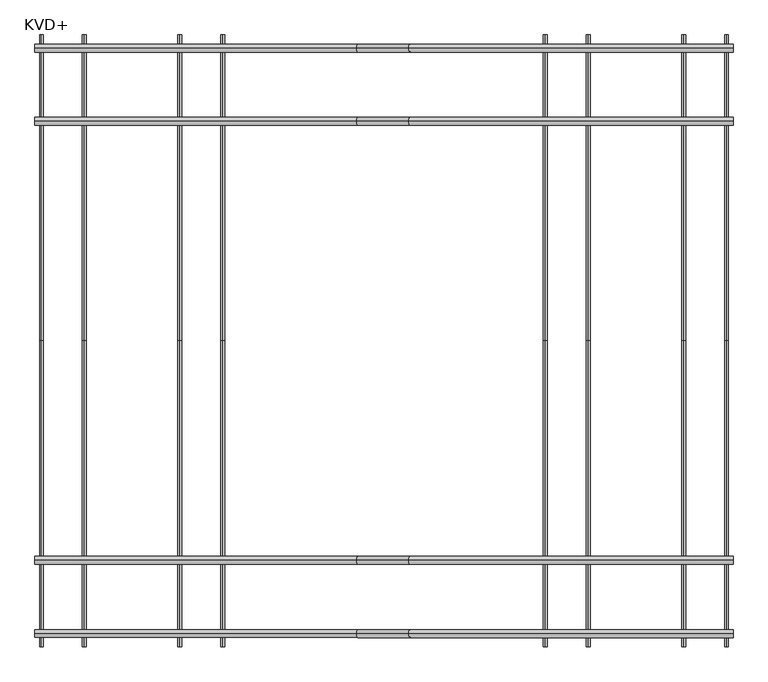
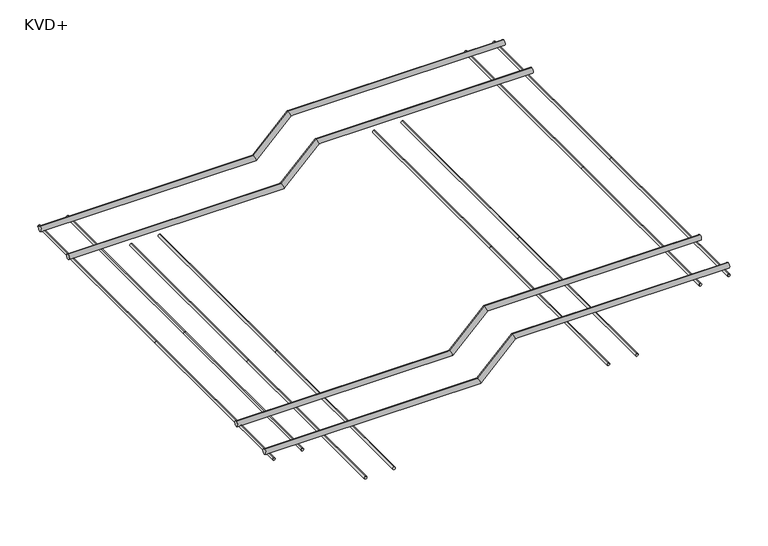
"""IFC4 building model written with IfcOpenShell, lengths in millimetres: proxy geometry, ACINOXplus_Typenreihe_KV : KVD+."""

from ifc_helpers import new_model, si_unit, frame, origin, place, context, project, spatial, circle_curve, ellipse_curve, source, transform, mapped, element, save
from ifc_brep_helpers import plane_surface, cylinder_surface, advanced_brep


def kvd_c4831772(model_context):
    return source(origin(), model_context, "Body", "AdvancedBrep", [
        advanced_brep(
        [(-530.0, 333.3333333, -42.0), (-530.0, 333.3333333, -30.0), (-37.5147186, 333.3333333, -42.0), (-42.4852814, 333.3333333, -30.0), (530.0, 333.3333333, 38.0), (530.0, 333.3333333, 50.0), (37.5147186, 333.3333333, 50.0), (42.4852814, 333.3333333, 38.0)],
        [
            (0, 1, circle_curve(frame((-530.0, 333.3333333, -36.0), z_axis=(-1.0, 0.0, 0.0), x_axis=(0.0, 0.0, 1.0)), 6.0)),
            (1, 0, circle_curve(frame((-530.0, 333.3333333, -36.0), z_axis=(-1.0, 0.0, 0.0), x_axis=(0.0, 0.0, 1.0)), 6.0)),
            (0, 2),
            (2, 3, ellipse_curve(frame((-40.0, 333.3333333, -36.0), z_axis=(-0.923879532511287, 0.0, -0.38268343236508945), x_axis=(-0.38268343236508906, 0.0, 0.9238795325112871)), 6.4943532, 6.0)),
            (3, 1),
            (3, 2, ellipse_curve(frame((-40.0, 333.3333333, -36.0), z_axis=(-0.923879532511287, 0.0, -0.38268343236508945), x_axis=(-0.38268343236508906, 0.0, 0.9238795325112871)), 6.4943532, 6.0)),
            (4, 5, circle_curve(frame((530.0, 333.3333333, 44.0), z_axis=(1.0, 0.0, 0.0), x_axis=(0.0, 0.0, 1.0)), 6.0)),
            (5, 4, circle_curve(frame((530.0, 333.3333333, 44.0), z_axis=(1.0, 0.0, 0.0), x_axis=(0.0, 0.0, 1.0)), 6.0)),
            (6, 7, ellipse_curve(frame((40.0, 333.3333333, 44.0), z_axis=(0.923879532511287, 0.0, 0.38268343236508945), x_axis=(-0.38268343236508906, 0.0, 0.9238795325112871)), 6.4943532, 6.0)),
            (7, 4),
            (5, 6),
            (7, 6, ellipse_curve(frame((40.0, 333.3333333, 44.0), z_axis=(0.923879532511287, 0.0, 0.38268343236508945), x_axis=(-0.38268343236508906, 0.0, 0.9238795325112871)), 6.4943532, 6.0)),
            (2, 7),
            (6, 3),
        ],
        [
            plane_surface(frame((-530.0, 333.3333333, -36.0), z_axis=(-1.0, 0.0, 0.0), x_axis=(0.0, -1.0, 0.0))),
            cylinder_surface(frame((-530.0, 333.3333333, -36.0), z_axis=(-1.0, 0.0, 0.0), x_axis=(0.0, 0.0, 1.0)), 6.0),
            plane_surface(frame((530.0, 333.3333333, 44.0), z_axis=(1.0, 0.0, 0.0), x_axis=(0.0, -1.0, 0.0))),
            cylinder_surface(frame((40.0, 333.3333333, 44.0), z_axis=(-1.0, 0.0, 0.0), x_axis=(0.0, 0.0, 1.0)), 6.0),
            cylinder_surface(frame((-40.0, 333.3333333, -36.0), z_axis=(-0.7071067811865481, 0.0, -0.707106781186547), x_axis=(-0.707106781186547, 0.0, 0.7071067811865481)), 6.0),
        ],
        [
            (0, [[1, 2]]),
            (1, [[-1, 3, 4, 5]]),
            (1, [[-2, -5, 6, -3]]),
            (2, [[7, 8]]),
            (3, [[9, 10, -8, 11]]),
            (3, [[12, -11, -7, -10]]),
            (4, [[-4, 13, -9, 14]]),
            (4, [[-6, -14, -12, -13]]),
        ],
    ),
        advanced_brep(
        [(-530.0, 444.4444444, -42.0), (-530.0, 444.4444444, -30.0), (-37.5147186, 444.4444444, -42.0), (-42.4852814, 444.4444444, -30.0), (530.0, 444.4444444, 38.0), (530.0, 444.4444444, 50.0), (37.5147186, 444.4444444, 50.0), (42.4852814, 444.4444444, 38.0)],
        [
            (0, 1, circle_curve(frame((-530.0, 444.4444444, -36.0), z_axis=(-1.0, 0.0, 0.0), x_axis=(0.0, 0.0, 1.0)), 6.0)),
            (1, 0, circle_curve(frame((-530.0, 444.4444444, -36.0), z_axis=(-1.0, 0.0, 0.0), x_axis=(0.0, 0.0, 1.0)), 6.0)),
            (0, 2),
            (2, 3, ellipse_curve(frame((-40.0, 444.4444444, -36.0), z_axis=(-0.923879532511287, 0.0, -0.38268343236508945), x_axis=(-0.38268343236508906, 0.0, 0.9238795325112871)), 6.4943532, 6.0)),
            (3, 1),
            (3, 2, ellipse_curve(frame((-40.0, 444.4444444, -36.0), z_axis=(-0.923879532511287, 0.0, -0.38268343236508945), x_axis=(-0.38268343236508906, 0.0, 0.9238795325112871)), 6.4943532, 6.0)),
            (4, 5, circle_curve(frame((530.0, 444.4444444, 44.0), z_axis=(1.0, 0.0, 0.0), x_axis=(0.0, 0.0, 1.0)), 6.0)),
            (5, 4, circle_curve(frame((530.0, 444.4444444, 44.0), z_axis=(1.0, 0.0, 0.0), x_axis=(0.0, 0.0, 1.0)), 6.0)),
            (6, 7, ellipse_curve(frame((40.0, 444.4444444, 44.0), z_axis=(0.923879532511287, 0.0, 0.38268343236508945), x_axis=(-0.38268343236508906, 0.0, 0.9238795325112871)), 6.4943532, 6.0)),
            (7, 4),
            (5, 6),
            (7, 6, ellipse_curve(frame((40.0, 444.4444444, 44.0), z_axis=(0.923879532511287, 0.0, 0.38268343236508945), x_axis=(-0.38268343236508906, 0.0, 0.9238795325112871)), 6.4943532, 6.0)),
            (2, 7),
            (6, 3),
        ],
        [
            plane_surface(frame((-530.0, 444.4444444, -36.0), z_axis=(-1.0, 0.0, 0.0), x_axis=(0.0, -1.0, 0.0))),
            cylinder_surface(frame((-530.0, 444.4444444, -36.0), z_axis=(-1.0, 0.0, 0.0), x_axis=(0.0, 0.0, 1.0)), 6.0),
            plane_surface(frame((530.0, 444.4444444, 44.0), z_axis=(1.0, 0.0, 0.0), x_axis=(0.0, -1.0, 0.0))),
            cylinder_surface(frame((40.0, 444.4444444, 44.0), z_axis=(-1.0, 0.0, 0.0), x_axis=(0.0, 0.0, 1.0)), 6.0),
            cylinder_surface(frame((-40.0, 444.4444444, -36.0), z_axis=(-0.7071067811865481, 0.0, -0.707106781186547), x_axis=(-0.707106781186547, 0.0, 0.7071067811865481)), 6.0),
        ],
        [
            (0, [[1, 2]]),
            (1, [[-1, 3, 4, 5]]),
            (1, [[-2, -5, 6, -3]]),
            (2, [[7, 8]]),
            (3, [[9, 10, -8, 11]]),
            (3, [[12, -11, -7, -10]]),
            (4, [[-4, 13, -9, 14]]),
            (4, [[-6, -14, -12, -13]]),
        ],
    ),
        advanced_brep(
        [(-530.0, -333.3333333, -42.0), (-530.0, -333.3333333, -30.0), (-37.5147186, -333.3333333, -42.0), (-42.4852814, -333.3333333, -30.0), (530.0, -333.3333333, 38.0), (530.0, -333.3333333, 50.0), (37.5147186, -333.3333333, 50.0), (42.4852814, -333.3333333, 38.0)],
        [
            (0, 1, circle_curve(frame((-530.0, -333.3333333, -36.0), z_axis=(-1.0, 0.0, 0.0), x_axis=(0.0, 0.0, 1.0)), 6.0)),
            (1, 0, circle_curve(frame((-530.0, -333.3333333, -36.0), z_axis=(-1.0, 0.0, 0.0), x_axis=(0.0, 0.0, 1.0)), 6.0)),
            (0, 2),
            (2, 3, ellipse_curve(frame((-40.0, -333.3333333, -36.0), z_axis=(-0.923879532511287, 0.0, -0.38268343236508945), x_axis=(-0.38268343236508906, 0.0, 0.9238795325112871)), 6.4943532, 6.0)),
            (3, 1),
            (3, 2, ellipse_curve(frame((-40.0, -333.3333333, -36.0), z_axis=(-0.923879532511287, 0.0, -0.38268343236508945), x_axis=(-0.38268343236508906, 0.0, 0.9238795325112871)), 6.4943532, 6.0)),
            (4, 5, circle_curve(frame((530.0, -333.3333333, 44.0), z_axis=(1.0, 0.0, 0.0), x_axis=(0.0, 0.0, 1.0)), 6.0)),
            (5, 4, circle_curve(frame((530.0, -333.3333333, 44.0), z_axis=(1.0, 0.0, 0.0), x_axis=(0.0, 0.0, 1.0)), 6.0)),
            (6, 7, ellipse_curve(frame((40.0, -333.3333333, 44.0), z_axis=(0.923879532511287, 0.0, 0.38268343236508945), x_axis=(-0.38268343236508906, 0.0, 0.9238795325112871)), 6.4943532, 6.0)),
            (7, 4),
            (5, 6),
            (7, 6, ellipse_curve(frame((40.0, -333.3333333, 44.0), z_axis=(0.923879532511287, 0.0, 0.38268343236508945), x_axis=(-0.38268343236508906, 0.0, 0.9238795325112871)), 6.4943532, 6.0)),
            (2, 7),
            (6, 3),
        ],
        [
            plane_surface(frame((-530.0, -333.3333333, -36.0), z_axis=(-1.0, 0.0, 0.0), x_axis=(0.0, -1.0, 0.0))),
            cylinder_surface(frame((-530.0, -333.3333333, -36.0), z_axis=(-1.0, 0.0, 0.0), x_axis=(0.0, 0.0, 1.0)), 6.0),
            plane_surface(frame((530.0, -333.3333333, 44.0), z_axis=(1.0, 0.0, 0.0), x_axis=(0.0, -1.0, 0.0))),
            cylinder_surface(frame((40.0, -333.3333333, 44.0), z_axis=(-1.0, 0.0, 0.0), x_axis=(0.0, 0.0, 1.0)), 6.0),
            cylinder_surface(frame((-40.0, -333.3333333, -36.0), z_axis=(-0.7071067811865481, 0.0, -0.707106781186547), x_axis=(-0.707106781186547, 0.0, 0.7071067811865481)), 6.0),
        ],
        [
            (0, [[1, 2]]),
            (1, [[-1, 3, 4, 5]]),
            (1, [[-2, -5, 6, -3]]),
            (2, [[7, 8]]),
            (3, [[9, 10, -8, 11]]),
            (3, [[12, -11, -7, -10]]),
            (4, [[-4, 13, -9, 14]]),
            (4, [[-6, -14, -12, -13]]),
        ],
    ),
        advanced_brep(
        [(-530.0, -444.4444444, -42.0), (-530.0, -444.4444444, -30.0), (-37.5147186, -444.4444444, -42.0), (-42.4852814, -444.4444444, -30.0), (530.0, -444.4444444, 38.0), (530.0, -444.4444444, 50.0), (37.5147186, -444.4444444, 50.0), (42.4852814, -444.4444444, 38.0)],
        [
            (0, 1, circle_curve(frame((-530.0, -444.4444444, -36.0), z_axis=(-1.0, 0.0, 0.0), x_axis=(0.0, 0.0, 1.0)), 6.0)),
            (1, 0, circle_curve(frame((-530.0, -444.4444444, -36.0), z_axis=(-1.0, 0.0, 0.0), x_axis=(0.0, 0.0, 1.0)), 6.0)),
            (0, 2),
            (2, 3, ellipse_curve(frame((-40.0, -444.4444444, -36.0), z_axis=(-0.923879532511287, 0.0, -0.38268343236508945), x_axis=(-0.38268343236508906, 0.0, 0.9238795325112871)), 6.4943532, 6.0)),
            (3, 1),
            (3, 2, ellipse_curve(frame((-40.0, -444.4444444, -36.0), z_axis=(-0.923879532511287, 0.0, -0.38268343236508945), x_axis=(-0.38268343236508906, 0.0, 0.9238795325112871)), 6.4943532, 6.0)),
            (4, 5, circle_curve(frame((530.0, -444.4444444, 44.0), z_axis=(1.0, 0.0, 0.0), x_axis=(0.0, 0.0, 1.0)), 6.0)),
            (5, 4, circle_curve(frame((530.0, -444.4444444, 44.0), z_axis=(1.0, 0.0, 0.0), x_axis=(0.0, 0.0, 1.0)), 6.0)),
            (6, 7, ellipse_curve(frame((40.0, -444.4444444, 44.0), z_axis=(0.923879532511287, 0.0, 0.38268343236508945), x_axis=(-0.38268343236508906, 0.0, 0.9238795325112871)), 6.4943532, 6.0)),
            (7, 4),
            (5, 6),
            (7, 6, ellipse_curve(frame((40.0, -444.4444444, 44.0), z_axis=(0.923879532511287, 0.0, 0.38268343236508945), x_axis=(-0.38268343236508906, 0.0, 0.9238795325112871)), 6.4943532, 6.0)),
            (2, 7),
            (6, 3),
        ],
        [
            plane_surface(frame((-530.0, -444.4444444, -36.0), z_axis=(-1.0, 0.0, 0.0), x_axis=(0.0, -1.0, 0.0))),
            cylinder_surface(frame((-530.0, -444.4444444, -36.0), z_axis=(-1.0, 0.0, 0.0), x_axis=(0.0, 0.0, 1.0)), 6.0),
            plane_surface(frame((530.0, -444.4444444, 44.0), z_axis=(1.0, 0.0, 0.0), x_axis=(0.0, -1.0, 0.0))),
            cylinder_surface(frame((40.0, -444.4444444, 44.0), z_axis=(-1.0, 0.0, 0.0), x_axis=(0.0, 0.0, 1.0)), 6.0),
            cylinder_surface(frame((-40.0, -444.4444444, -36.0), z_axis=(-0.7071067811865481, 0.0, -0.707106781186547), x_axis=(-0.707106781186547, 0.0, 0.7071067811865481)), 6.0),
        ],
        [
            (0, [[1, 2]]),
            (1, [[-1, 3, 4, 5]]),
            (1, [[-2, -5, 6, -3]]),
            (2, [[7, 8]]),
            (3, [[9, 10, -8, 11]]),
            (3, [[12, -11, -7, -10]]),
            (4, [[-4, 13, -9, 14]]),
            (4, [[-6, -14, -12, -13]]),
        ],
    ),
        advanced_brep(
        [(-310.0, -464.4444444, -167.0), (-310.0, -464.4444444, -161.0), (-310.0, 0.0, -167.0), (-310.0, 0.0, -161.0), (-310.0, 464.4444444, -167.0), (-310.0, 464.4444444, -161.0)],
        [
            (0, 1, circle_curve(frame((-310.0, -464.4444444, -164.0), z_axis=(0.0, -1.0, 0.0), x_axis=(0.0, 0.0, 1.0)), 3.0)),
            (1, 0, circle_curve(frame((-310.0, -464.4444444, -164.0), z_axis=(0.0, -1.0, 0.0), x_axis=(0.0, 0.0, 1.0)), 3.0)),
            (0, 2),
            (2, 3, circle_curve(frame((-310.0, 0.0, -164.0), z_axis=(0.0, -1.0, 0.0), x_axis=(0.0, 0.0, 1.0)), 3.0)),
            (3, 1),
            (3, 2, circle_curve(frame((-310.0, 0.0, -164.0), z_axis=(0.0, -1.0, 0.0), x_axis=(0.0, 0.0, 1.0)), 3.0)),
            (4, 5, circle_curve(frame((-310.0, 464.4444444, -164.0), z_axis=(0.0, 1.0, 0.0), x_axis=(0.0, 0.0, 1.0)), 3.0)),
            (5, 4, circle_curve(frame((-310.0, 464.4444444, -164.0), z_axis=(0.0, 1.0, 0.0), x_axis=(0.0, 0.0, 1.0)), 3.0)),
            (2, 4),
            (5, 3),
        ],
        [
            plane_surface(frame((-310.0, -464.4444444, -164.0), z_axis=(0.0, -1.0, 0.0), x_axis=(1.0, 0.0, 0.0))),
            cylinder_surface(frame((-310.0, -464.4444444, -164.0), z_axis=(0.0, -1.0, 0.0), x_axis=(0.0, 0.0, 1.0)), 3.0),
            plane_surface(frame((-310.0, 464.4444444, -164.0), z_axis=(0.0, 1.0, 0.0), x_axis=(1.0, 0.0, 0.0))),
            cylinder_surface(frame((-310.0, 0.0, -164.0), z_axis=(0.0, -1.0, 0.0), x_axis=(0.0, 0.0, 1.0)), 3.0),
        ],
        [
            (0, [[1, 2]]),
            (1, [[-1, 3, 4, 5]]),
            (1, [[-2, -5, 6, -3]]),
            (2, [[7, 8]]),
            (3, [[-4, 9, -8, 10]]),
            (3, [[-6, -10, -7, -9]]),
        ],
    ),
        advanced_brep(
        [(-245.0, -464.4444444, -167.0), (-245.0, -464.4444444, -161.0), (-245.0, 0.0, -167.0), (-245.0, 0.0, -161.0), (-245.0, 464.4444444, -167.0), (-245.0, 464.4444444, -161.0)],
        [
            (0, 1, circle_curve(frame((-245.0, -464.4444444, -164.0), z_axis=(0.0, -1.0, 0.0), x_axis=(0.0, 0.0, 1.0)), 3.0)),
            (1, 0, circle_curve(frame((-245.0, -464.4444444, -164.0), z_axis=(0.0, -1.0, 0.0), x_axis=(0.0, 0.0, 1.0)), 3.0)),
            (0, 2),
            (2, 3, circle_curve(frame((-245.0, 0.0, -164.0), z_axis=(0.0, -1.0, 0.0), x_axis=(0.0, 0.0, 1.0)), 3.0)),
            (3, 1),
            (3, 2, circle_curve(frame((-245.0, 0.0, -164.0), z_axis=(0.0, -1.0, 0.0), x_axis=(0.0, 0.0, 1.0)), 3.0)),
            (4, 5, circle_curve(frame((-245.0, 464.4444444, -164.0), z_axis=(0.0, 1.0, 0.0), x_axis=(0.0, 0.0, 1.0)), 3.0)),
            (5, 4, circle_curve(frame((-245.0, 464.4444444, -164.0), z_axis=(0.0, 1.0, 0.0), x_axis=(0.0, 0.0, 1.0)), 3.0)),
            (2, 4),
            (5, 3),
        ],
        [
            plane_surface(frame((-245.0, -464.4444444, -164.0), z_axis=(0.0, -1.0, 0.0), x_axis=(1.0, 0.0, 0.0))),
            cylinder_surface(frame((-245.0, -464.4444444, -164.0), z_axis=(0.0, -1.0, 0.0), x_axis=(0.0, 0.0, 1.0)), 3.0),
            plane_surface(frame((-245.0, 464.4444444, -164.0), z_axis=(0.0, 1.0, 0.0), x_axis=(1.0, 0.0, 0.0))),
            cylinder_surface(frame((-245.0, 0.0, -164.0), z_axis=(0.0, -1.0, 0.0), x_axis=(0.0, 0.0, 1.0)), 3.0),
        ],
        [
            (0, [[1, 2]]),
            (1, [[-1, 3, 4, 5]]),
            (1, [[-2, -5, 6, -3]]),
            (2, [[7, 8]]),
            (3, [[-4, 9, -8, 10]]),
            (3, [[-6, -10, -7, -9]]),
        ],
    ),
        advanced_brep(
        [(245.0, -464.4444444, -87.0), (245.0, -464.4444444, -81.0), (245.0, 0.0, -87.0), (245.0, 0.0, -81.0), (245.0, 464.4444444, -87.0), (245.0, 464.4444444, -81.0)],
        [
            (0, 1, circle_curve(frame((245.0, -464.4444444, -84.0), z_axis=(0.0, -1.0, 0.0), x_axis=(0.0, 0.0, 1.0)), 3.0)),
            (1, 0, circle_curve(frame((245.0, -464.4444444, -84.0), z_axis=(0.0, -1.0, 0.0), x_axis=(0.0, 0.0, 1.0)), 3.0)),
            (0, 2),
            (2, 3, circle_curve(frame((245.0, 0.0, -84.0), z_axis=(0.0, -1.0, 0.0), x_axis=(0.0, 0.0, 1.0)), 3.0)),
            (3, 1),
            (3, 2, circle_curve(frame((245.0, 0.0, -84.0), z_axis=(0.0, -1.0, 0.0), x_axis=(0.0, 0.0, 1.0)), 3.0)),
            (4, 5, circle_curve(frame((245.0, 464.4444444, -84.0), z_axis=(0.0, 1.0, 0.0), x_axis=(0.0, 0.0, 1.0)), 3.0)),
            (5, 4, circle_curve(frame((245.0, 464.4444444, -84.0), z_axis=(0.0, 1.0, 0.0), x_axis=(0.0, 0.0, 1.0)), 3.0)),
            (2, 4),
            (5, 3),
        ],
        [
            plane_surface(frame((245.0, -464.4444444, -84.0), z_axis=(0.0, -1.0, 0.0), x_axis=(1.0, 0.0, 0.0))),
            cylinder_surface(frame((245.0, -464.4444444, -84.0), z_axis=(0.0, -1.0, 0.0), x_axis=(0.0, 0.0, 1.0)), 3.0),
            plane_surface(frame((245.0, 464.4444444, -84.0), z_axis=(0.0, 1.0, 0.0), x_axis=(1.0, 0.0, 0.0))),
            cylinder_surface(frame((245.0, 0.0, -84.0), z_axis=(0.0, -1.0, 0.0), x_axis=(0.0, 0.0, 1.0)), 3.0),
        ],
        [
            (0, [[1, 2]]),
            (1, [[-1, 3, 4, 5]]),
            (1, [[-2, -5, 6, -3]]),
            (2, [[7, 8]]),
            (3, [[-4, 9, -8, 10]]),
            (3, [[-6, -10, -7, -9]]),
        ],
    ),
        advanced_brep(
        [(310.0, -464.4444444, -87.0), (310.0, -464.4444444, -81.0), (310.0, 0.0, -87.0), (310.0, 0.0, -81.0), (310.0, 464.4444444, -87.0), (310.0, 464.4444444, -81.0)],
        [
            (0, 1, circle_curve(frame((310.0, -464.4444444, -84.0), z_axis=(0.0, -1.0, 0.0), x_axis=(0.0, 0.0, 1.0)), 3.0)),
            (1, 0, circle_curve(frame((310.0, -464.4444444, -84.0), z_axis=(0.0, -1.0, 0.0), x_axis=(0.0, 0.0, 1.0)), 3.0)),
            (0, 2),
            (2, 3, circle_curve(frame((310.0, 0.0, -84.0), z_axis=(0.0, -1.0, 0.0), x_axis=(0.0, 0.0, 1.0)), 3.0)),
            (3, 1),
            (3, 2, circle_curve(frame((310.0, 0.0, -84.0), z_axis=(0.0, -1.0, 0.0), x_axis=(0.0, 0.0, 1.0)), 3.0)),
            (4, 5, circle_curve(frame((310.0, 464.4444444, -84.0), z_axis=(0.0, 1.0, 0.0), x_axis=(0.0, 0.0, 1.0)), 3.0)),
            (5, 4, circle_curve(frame((310.0, 464.4444444, -84.0), z_axis=(0.0, 1.0, 0.0), x_axis=(0.0, 0.0, 1.0)), 3.0)),
            (2, 4),
            (5, 3),
        ],
        [
            plane_surface(frame((310.0, -464.4444444, -84.0), z_axis=(0.0, -1.0, 0.0), x_axis=(1.0, 0.0, 0.0))),
            cylinder_surface(frame((310.0, -464.4444444, -84.0), z_axis=(0.0, -1.0, 0.0), x_axis=(0.0, 0.0, 1.0)), 3.0),
            plane_surface(frame((310.0, 464.4444444, -84.0), z_axis=(0.0, 1.0, 0.0), x_axis=(1.0, 0.0, 0.0))),
            cylinder_surface(frame((310.0, 0.0, -84.0), z_axis=(0.0, -1.0, 0.0), x_axis=(0.0, 0.0, 1.0)), 3.0),
        ],
        [
            (0, [[1, 2]]),
            (1, [[-1, 3, 4, 5]]),
            (1, [[-2, -5, 6, -3]]),
            (2, [[7, 8]]),
            (3, [[-4, 9, -8, 10]]),
            (3, [[-6, -10, -7, -9]]),
        ],
    ),
        advanced_brep(
        [(455.0, -464.4444444, 32.0), (455.0, -464.4444444, 38.0), (455.0, 0.0, 32.0), (455.0, 0.0, 38.0), (455.0, 464.4444444, 32.0), (455.0, 464.4444444, 38.0)],
        [
            (0, 1, circle_curve(frame((455.0, -464.4444444, 35.0), z_axis=(0.0, -1.0, 0.0), x_axis=(0.0, 0.0, 1.0)), 3.0)),
            (1, 0, circle_curve(frame((455.0, -464.4444444, 35.0), z_axis=(0.0, -1.0, 0.0), x_axis=(0.0, 0.0, 1.0)), 3.0)),
            (0, 2),
            (2, 3, circle_curve(frame((455.0, 0.0, 35.0), z_axis=(0.0, -1.0, 0.0), x_axis=(0.0, 0.0, 1.0)), 3.0)),
            (3, 1),
            (3, 2, circle_curve(frame((455.0, 0.0, 35.0), z_axis=(0.0, -1.0, 0.0), x_axis=(0.0, 0.0, 1.0)), 3.0)),
            (4, 5, circle_curve(frame((455.0, 464.4444444, 35.0), z_axis=(0.0, 1.0, 0.0), x_axis=(0.0, 0.0, 1.0)), 3.0)),
            (5, 4, circle_curve(frame((455.0, 464.4444444, 35.0), z_axis=(0.0, 1.0, 0.0), x_axis=(0.0, 0.0, 1.0)), 3.0)),
            (2, 4),
            (5, 3),
        ],
        [
            plane_surface(frame((455.0, -464.4444444, 35.0), z_axis=(0.0, -1.0, 0.0), x_axis=(1.0, 0.0, 0.0))),
            cylinder_surface(frame((455.0, -464.4444444, 35.0), z_axis=(0.0, -1.0, 0.0), x_axis=(0.0, 0.0, 1.0)), 3.0),
            plane_surface(frame((455.0, 464.4444444, 35.0), z_axis=(0.0, 1.0, 0.0), x_axis=(1.0, 0.0, 0.0))),
            cylinder_surface(frame((455.0, 0.0, 35.0), z_axis=(0.0, -1.0, 0.0), x_axis=(0.0, 0.0, 1.0)), 3.0),
        ],
        [
            (0, [[1, 2]]),
            (1, [[-1, 3, 4, 5]]),
            (1, [[-2, -5, 6, -3]]),
            (2, [[7, 8]]),
            (3, [[-4, 9, -8, 10]]),
            (3, [[-6, -10, -7, -9]]),
        ],
    ),
        advanced_brep(
        [(520.0, -464.4444444, 32.0), (520.0, -464.4444444, 38.0), (520.0, 0.0, 32.0), (520.0, 0.0, 38.0), (520.0, 464.4444444, 32.0), (520.0, 464.4444444, 38.0)],
        [
            (0, 1, circle_curve(frame((520.0, -464.4444444, 35.0), z_axis=(0.0, -1.0, 0.0), x_axis=(0.0, 0.0, 1.0)), 3.0)),
            (1, 0, circle_curve(frame((520.0, -464.4444444, 35.0), z_axis=(0.0, -1.0, 0.0), x_axis=(0.0, 0.0, 1.0)), 3.0)),
            (0, 2),
            (2, 3, circle_curve(frame((520.0, 0.0, 35.0), z_axis=(0.0, -1.0, 0.0), x_axis=(0.0, 0.0, 1.0)), 3.0)),
            (3, 1),
            (3, 2, circle_curve(frame((520.0, 0.0, 35.0), z_axis=(0.0, -1.0, 0.0), x_axis=(0.0, 0.0, 1.0)), 3.0)),
            (4, 5, circle_curve(frame((520.0, 464.4444444, 35.0), z_axis=(0.0, 1.0, 0.0), x_axis=(0.0, 0.0, 1.0)), 3.0)),
            (5, 4, circle_curve(frame((520.0, 464.4444444, 35.0), z_axis=(0.0, 1.0, 0.0), x_axis=(0.0, 0.0, 1.0)), 3.0)),
            (2, 4),
            (5, 3),
        ],
        [
            plane_surface(frame((520.0, -464.4444444, 35.0), z_axis=(0.0, -1.0, 0.0), x_axis=(1.0, 0.0, 0.0))),
            cylinder_surface(frame((520.0, -464.4444444, 35.0), z_axis=(0.0, -1.0, 0.0), x_axis=(0.0, 0.0, 1.0)), 3.0),
            plane_surface(frame((520.0, 464.4444444, 35.0), z_axis=(0.0, 1.0, 0.0), x_axis=(1.0, 0.0, 0.0))),
            cylinder_surface(frame((520.0, 0.0, 35.0), z_axis=(0.0, -1.0, 0.0), x_axis=(0.0, 0.0, 1.0)), 3.0),
        ],
        [
            (0, [[1, 2]]),
            (1, [[-1, 3, 4, 5]]),
            (1, [[-2, -5, 6, -3]]),
            (2, [[7, 8]]),
            (3, [[-4, 9, -8, 10]]),
            (3, [[-6, -10, -7, -9]]),
        ],
    ),
        advanced_brep(
        [(-520.0, -464.4444444, -48.0), (-520.0, -464.4444444, -42.0), (-520.0, 0.0, -48.0), (-520.0, 0.0, -42.0), (-520.0, 464.4444444, -48.0), (-520.0, 464.4444444, -42.0)],
        [
            (0, 1, circle_curve(frame((-520.0, -464.4444444, -45.0), z_axis=(0.0, -1.0, 0.0), x_axis=(0.0, 0.0, 1.0)), 3.0)),
            (1, 0, circle_curve(frame((-520.0, -464.4444444, -45.0), z_axis=(0.0, -1.0, 0.0), x_axis=(0.0, 0.0, 1.0)), 3.0)),
            (0, 2),
            (2, 3, circle_curve(frame((-520.0, 0.0, -45.0), z_axis=(0.0, -1.0, 0.0), x_axis=(0.0, 0.0, 1.0)), 3.0)),
            (3, 1),
            (3, 2, circle_curve(frame((-520.0, 0.0, -45.0), z_axis=(0.0, -1.0, 0.0), x_axis=(0.0, 0.0, 1.0)), 3.0)),
            (4, 5, circle_curve(frame((-520.0, 464.4444444, -45.0), z_axis=(0.0, 1.0, 0.0), x_axis=(0.0, 0.0, 1.0)), 3.0)),
            (5, 4, circle_curve(frame((-520.0, 464.4444444, -45.0), z_axis=(0.0, 1.0, 0.0), x_axis=(0.0, 0.0, 1.0)), 3.0)),
            (2, 4),
            (5, 3),
        ],
        [
            plane_surface(frame((-520.0, -464.4444444, -45.0), z_axis=(0.0, -1.0, 0.0), x_axis=(1.0, 0.0, 0.0))),
            cylinder_surface(frame((-520.0, -464.4444444, -45.0), z_axis=(0.0, -1.0, 0.0), x_axis=(0.0, 0.0, 1.0)), 3.0),
            plane_surface(frame((-520.0, 464.4444444, -45.0), z_axis=(0.0, 1.0, 0.0), x_axis=(1.0, 0.0, 0.0))),
            cylinder_surface(frame((-520.0, 0.0, -45.0), z_axis=(0.0, -1.0, 0.0), x_axis=(0.0, 0.0, 1.0)), 3.0),
        ],
        [
            (0, [[1, 2]]),
            (1, [[-1, 3, 4, 5]]),
            (1, [[-2, -5, 6, -3]]),
            (2, [[7, 8]]),
            (3, [[-4, 9, -8, 10]]),
            (3, [[-6, -10, -7, -9]]),
        ],
    ),
        advanced_brep(
        [(-455.0, -464.4444444, -48.0), (-455.0, -464.4444444, -42.0), (-455.0, 0.0, -48.0), (-455.0, 0.0, -42.0), (-455.0, 464.4444444, -48.0), (-455.0, 464.4444444, -42.0)],
        [
            (0, 1, circle_curve(frame((-455.0, -464.4444444, -45.0), z_axis=(0.0, -1.0, 0.0), x_axis=(0.0, 0.0, 1.0)), 3.0)),
            (1, 0, circle_curve(frame((-455.0, -464.4444444, -45.0), z_axis=(0.0, -1.0, 0.0), x_axis=(0.0, 0.0, 1.0)), 3.0)),
            (0, 2),
            (2, 3, circle_curve(frame((-455.0, 0.0, -45.0), z_axis=(0.0, -1.0, 0.0), x_axis=(0.0, 0.0, 1.0)), 3.0)),
            (3, 1),
            (3, 2, circle_curve(frame((-455.0, 0.0, -45.0), z_axis=(0.0, -1.0, 0.0), x_axis=(0.0, 0.0, 1.0)), 3.0)),
            (4, 5, circle_curve(frame((-455.0, 464.4444444, -45.0), z_axis=(0.0, 1.0, 0.0), x_axis=(0.0, 0.0, 1.0)), 3.0)),
            (5, 4, circle_curve(frame((-455.0, 464.4444444, -45.0), z_axis=(0.0, 1.0, 0.0), x_axis=(0.0, 0.0, 1.0)), 3.0)),
            (2, 4),
            (5, 3),
        ],
        [
            plane_surface(frame((-455.0, -464.4444444, -45.0), z_axis=(0.0, -1.0, 0.0), x_axis=(1.0, 0.0, 0.0))),
            cylinder_surface(frame((-455.0, -464.4444444, -45.0), z_axis=(0.0, -1.0, 0.0), x_axis=(0.0, 0.0, 1.0)), 3.0),
            plane_surface(frame((-455.0, 464.4444444, -45.0), z_axis=(0.0, 1.0, 0.0), x_axis=(1.0, 0.0, 0.0))),
            cylinder_surface(frame((-455.0, 0.0, -45.0), z_axis=(0.0, -1.0, 0.0), x_axis=(0.0, 0.0, 1.0)), 3.0),
        ],
        [
            (0, [[1, 2]]),
            (1, [[-1, 3, 4, 5]]),
            (1, [[-2, -5, 6, -3]]),
            (2, [[7, 8]]),
            (3, [[-4, 9, -8, 10]]),
            (3, [[-6, -10, -7, -9]]),
        ],
    ),
    ])


if __name__ == "__main__":
    model = new_model("IFC4")
    model_context = context("Model", 3, world=origin())
    ifc_project = project(units=[si_unit("LENGTHUNIT", "METRE", prefix="MILLI")], contexts=[model_context])
    site = spatial("IfcSite", under=ifc_project)
    building = spatial("IfcBuilding", under=site)
    placement = place(None, origin())
    kvd_shape = kvd_c4831772(model_context)
    element("IfcBuildingElementProxy", 1, Name="ACINOXplus_Typenreihe_KV : KVD+", ObjectType="ACINOXplus_Typenreihe_KV : KVD+", at=placement, inside=building, context=model_context, shape_type="MappedRepresentation", body=[
        mapped(kvd_shape, transform((0.0, 0.0, 0.0), x_axis=(1.0, 0.0, 0.0), y_axis=(0.0, 1.0, 0.0), z_axis=(0.0, 0.0, 1.0))),
    ])
    save(model, "model.ifc")
